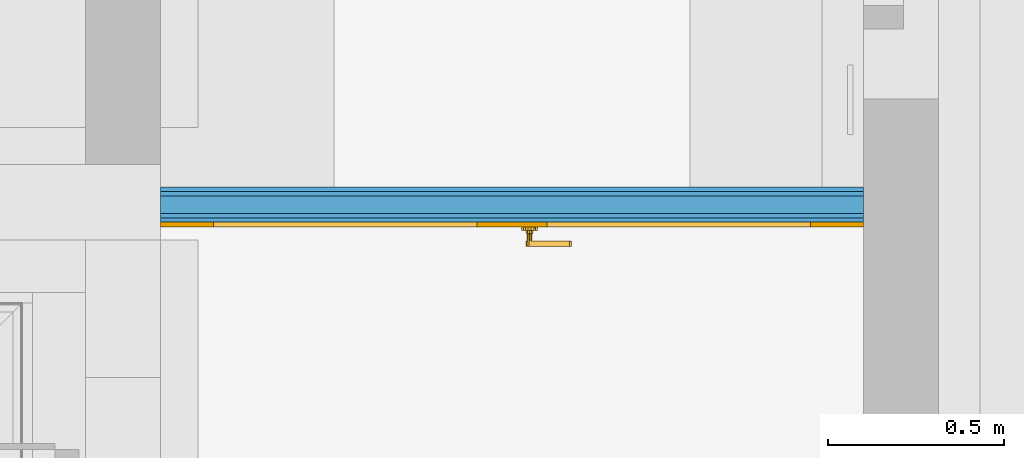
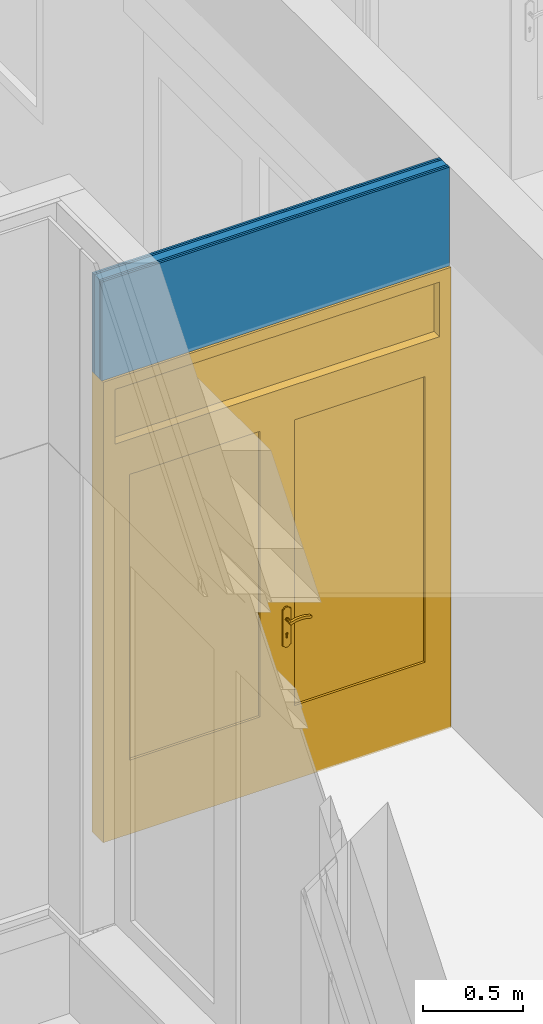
# One storey, part 17 of 788: 5 building element parts, 1 door, 1 opening, 1 element without a shape of its own.
"""IFC2X3 building model written with IfcOpenShell, lengths in millimetres."""

from ifc_helpers import new_model, entity, si_unit, converted_unit, derived_unit, money_unit, direction, frame, origin_with_axes, place, context, subcontext, project, spatial, open_shell, faceted_brep, surface_model, source, transform, mapped, material, type_object, type_shapes, element, fill, aggregate, save


model = new_model("IFC2X3")

# Units and contexts
model_context = context("Model", 3, precision=0.01, world=origin_with_axes(), true_north=direction((0.0, 1.0)))
plan_context = context("Plan", 3, precision=0.01, world=origin_with_axes(), true_north=direction((0.0, 1.0)))
body_context = subcontext(model_context, "Body", "Model", "MODEL_VIEW")
ifc_project = project(units=[si_unit("LENGTHUNIT", "METRE", prefix="MILLI"), si_unit("AREAUNIT", "SQUARE_METRE"), si_unit("VOLUMEUNIT", "CUBIC_METRE"), converted_unit("PLANEANGLEUNIT", "DEGREE", entity("IfcPlaneAngleMeasure", 0.0174532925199), si_unit("PLANEANGLEUNIT", "RADIAN"), dimensions=[0, 0, 0, 0, 0, 0, 0]), money_unit("EUR"), converted_unit("TIMEUNIT", "Year", entity("IfcTimeMeasure", 31556926.0), si_unit("TIMEUNIT", "SECOND"), dimensions=[0, 0, 1, 0, 0, 0, 0]), si_unit("MASSUNIT", "GRAM", prefix="KILO"), si_unit("THERMODYNAMICTEMPERATUREUNIT", "DEGREE_CELSIUS"), si_unit("LUMINOUSINTENSITYUNIT", "LUMEN"), si_unit("ENERGYUNIT", "JOULE", prefix="MEGA"), derived_unit("THERMALCONDUCTANCEUNIT", [(si_unit("POWERUNIT", "WATT"), 1), (si_unit("LENGTHUNIT", "METRE"), -1), (si_unit("THERMODYNAMICTEMPERATUREUNIT", "KELVIN"), -1)]), derived_unit("SPECIFICHEATCAPACITYUNIT", [(si_unit("ENERGYUNIT", "JOULE"), 1), (si_unit("MASSUNIT", "GRAM", prefix="KILO"), -1), (si_unit("THERMODYNAMICTEMPERATUREUNIT", "KELVIN"), -1)]), derived_unit("MASSDENSITYUNIT", [(si_unit("MASSUNIT", "GRAM", prefix="KILO"), 1), (si_unit("VOLUMEUNIT", "CUBIC_METRE"), -1)])], contexts=[model_context, plan_context])

# Site, building, storey
site_placement = place(None, origin_with_axes())
site = spatial("IfcSite", under=ifc_project, at=site_placement, Name="Site", CompositionType="ELEMENT")
building_placement = place(site_placement, origin_with_axes())
building = spatial("IfcBuilding", under=site, at=building_placement, Name="Naam gebouw", CompositionType="ELEMENT")
storey_placement = place(building_placement, origin_with_axes())
storey = spatial("IfcBuildingStorey", under=building, at=storey_placement, Name="Begane grond", CompositionType="ELEMENT", Elevation=0.0)

# Door
door_style = type_object("IfcDoorStyle", Name="D2 bl 25", ConstructionType="NOTDEFINED", OperationType="DOUBLE_DOOR_SINGLE_SWING", ParameterTakesPrecedence=False, Sizeable=False)
shared_shape = source(origin_with_axes(), body_context, "Body", "SurfaceModel", [
    faceted_brep([(933.0, -40.0, 2327.0), (933.0, -40.0, 0.0), (933.0, -114.0, 0.0), (933.0, -114.0, 2310.0), (933.0, -114.0, 2400.0), (933.0, 0.0, 2400.0), (933.0, 0.0, 2327.0), (950.0, -40.0, 2327.0), (950.0, -40.0, 0.0), (950.0, 0.0, 0.0), (1000.0, 0.0, 0.0), (1000.0, -114.0, 0.0), (1000.0, -114.0, 2733.0), (933.0, -114.0, 2733.0), (933.0, 0.0, 2733.0), (950.0, 0.0, 2327.0), (1000.0, 0.0, 2733.0)], [[[0, 1, 2, 3, 4, 5, 6]], [[0, 7, 8, 1]], [[8, 9, 10, 11, 2, 1]], [[4, 3, 2, 11, 12, 13]], [[14, 5, 4, 13]], [[15, 6, 5, 14, 16, 10, 9]], [[6, 15, 7, 0]], [[9, 8, 7, 15]], [[10, 16, 12, 11]], [[16, 14, 13, 12]]]),
    faceted_brep([(-950.0, 0.0, 2327.0), (-950.0, 0.0, 0.0), (-1000.0, 0.0, 0.0), (-1000.0, 0.0, 2733.0), (-933.0, 0.0, 2733.0), (-933.0, 0.0, 2400.0), (-933.0, 0.0, 2327.0), (-950.0, -40.0, 2327.0), (-950.0, -40.0, 0.0), (-933.0, -40.0, 0.0), (-933.0, -114.0, 0.0), (-1000.0, -114.0, 0.0), (-1000.0, -114.0, 2733.0), (-933.0, -114.0, 2733.0), (-933.0, -114.0, 2400.0), (-933.0, -40.0, 2327.0), (-933.0, -114.0, 2310.0)], [[[0, 1, 2, 3, 4, 5, 6]], [[0, 7, 8, 1]], [[8, 9, 10, 11, 2, 1]], [[3, 2, 11, 12]], [[4, 3, 12, 13]], [[5, 4, 13, 14]], [[15, 6, 5, 14, 16, 10, 9]], [[6, 15, 7, 0]], [[8, 7, 15, 9]], [[14, 13, 12, 11, 10, 16]]]),
    faceted_brep([(1000.0, 0.0, 2800.0), (1000.0, -114.0, 2800.0), (1000.0, -114.0, 2733.0), (1000.0, 0.0, 2733.0), (-1000.0, 0.0, 2800.0), (-1000.0, -114.0, 2800.0), (-1000.0, -114.0, 2733.0), (-933.0, -114.0, 2733.0), (933.0, -114.0, 2733.0), (933.0, 0.0, 2733.0), (-933.0, 0.0, 2733.0), (-1000.0, 0.0, 2733.0)], [[[0, 1, 2, 3]], [[4, 5, 1, 0]], [[1, 5, 6, 7, 8, 2]], [[3, 2, 8, 9]], [[0, 3, 9, 10, 11, 4]], [[11, 6, 5, 4]], [[10, 7, 6, 11]], [[9, 8, 7, 10]]]),
    faceted_brep([(-933.0, -40.0, 2327.0), (-933.0, -40.0, 2310.0), (-933.0, -114.0, 2310.0), (-933.0, -114.0, 2400.0), (-933.0, 0.0, 2400.0), (-933.0, 0.0, 2327.0), (933.0, -40.0, 2327.0), (933.0, -40.0, 2310.0), (933.0, -114.0, 2310.0), (933.0, -114.0, 2400.0), (933.0, 0.0, 2400.0), (933.0, 0.0, 2327.0)], [[[0, 1, 2, 3, 4, 5]], [[0, 6, 7, 1]], [[7, 8, 2, 1]], [[8, 9, 3, 2]], [[10, 4, 3, 9]], [[5, 4, 10, 11]], [[5, 11, 6, 0]], [[6, 11, 10, 9, 8, 7]]]),
    faceted_brep([(-45.2977179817, -80.0, 1006.47213595), (-45.2977179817, -60.0, 1006.47213595), (-50.0, -60.0, 1008.0), (-50.0, -80.0, 1008.0), (-42.3915478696, -80.0, 1002.47213595), (-42.3915478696, -60.0, 1002.47213595), (-44.1221474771, -58.0, 1008.09016994), (-50.0, -58.0, 1010.0), (-54.7022820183, -60.0, 1006.47213595), (-54.7022820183, -80.0, 1006.47213595), (-57.6084521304, -80.0, 1002.47213595), (-57.6084521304, -80.0, 997.527864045), (-54.7022820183, -80.0, 993.527864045), (-50.0, -80.0, 992.0), (-45.2977179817, -80.0, 993.527864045), (-42.3915478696, -80.0, 997.527864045), (-42.3915478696, -60.0, 997.527864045), (-40.489434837, -58.0, 1003.09016994), (-44.1221474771, -50.0, 1008.09016994), (-50.0, -50.0, 1010.0), (-55.8778525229, -58.0, 1008.09016994), (-57.6084521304, -60.0, 1002.47213595), (-57.6084521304, -60.0, 997.527864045), (-54.7022820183, -60.0, 993.527864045), (-50.0, -60.0, 992.0), (-45.2977179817, -60.0, 993.527864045), (-40.489434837, -58.0, 996.909830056), (-40.489434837, -50.0, 1003.09016994), (-40.489434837, -50.0, 996.909830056), (-44.1221474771, -50.0, 991.909830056), (-50.0, -50.0, 990.0), (-55.8778525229, -50.0, 991.909830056), (-59.510565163, -50.0, 996.909830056), (-59.510565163, -50.0, 1003.09016994), (-55.8778525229, -50.0, 1008.09016994), (-59.510565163, -58.0, 1003.09016994), (-59.510565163, -58.0, 996.909830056), (-55.8778525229, -58.0, 991.909830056), (-50.0, -58.0, 990.0), (-44.1221474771, -58.0, 991.909830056)], [[[0, 1, 2, 3]], [[4, 5, 1, 0]], [[1, 6, 7, 2]], [[3, 2, 8, 9]], [[3, 9, 10, 11, 12, 13, 14, 15, 4, 0]], [[15, 16, 5, 4]], [[5, 17, 6, 1]], [[6, 18, 19, 7]], [[2, 7, 20, 8]], [[9, 8, 21, 10]], [[10, 21, 22, 11]], [[11, 22, 23, 12]], [[12, 23, 24, 13]], [[13, 24, 25, 14]], [[14, 25, 16, 15]], [[16, 26, 17, 5]], [[17, 27, 18, 6]], [[19, 18, 27, 28, 29, 30, 31, 32, 33, 34]], [[7, 19, 34, 20]], [[8, 20, 35, 21]], [[21, 35, 36, 22]], [[22, 36, 37, 23]], [[23, 37, 38, 24]], [[24, 38, 39, 25]], [[25, 39, 26, 16]], [[26, 28, 27, 17]], [[39, 29, 28, 26]], [[38, 30, 29, 39]], [[37, 31, 30, 38]], [[36, 32, 31, 37]], [[35, 33, 32, 36]], [[20, 34, 33, 35]]]),
    faceted_brep([(-62.1883833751, -50.0, 1067.59695641), (-66.8, -50.0, 1060.0), (-72.5, -50.0, 1060.0), (-72.5, -50.0, 840.0), (-66.8, -50.0, 840.0), (-62.1883833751, -50.0, 832.403043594), (-54.4435558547, -50.0, 828.044328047), (-45.5564441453, -50.0, 828.044328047), (-37.8116166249, -50.0, 832.403043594), (-33.2, -50.0, 840.0), (-27.5, -50.0, 840.0), (-27.5, -50.0, 1060.0), (-33.2, -50.0, 1060.0), (-37.8116166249, -50.0, 1067.59695641), (-45.5564441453, -50.0, 1071.95567195), (-54.4435558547, -50.0, 1071.95567195), (-50.0, -50.0, 917.425445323), (-44.624817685, -50.0, 915.143815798), (-42.5321692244, -50.0, 909.692280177), (-45.0, -50.0, 904.4), (-45.0, -50.0, 887.5), (-46.4644660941, -50.0, 883.964466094), (-50.0, -50.0, 882.5), (-53.5355339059, -50.0, 883.964466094), (-55.0, -50.0, 887.5), (-55.0, -50.0, 904.4), (-57.4678307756, -50.0, 909.692280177), (-55.375182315, -50.0, 915.143815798), (-62.1883833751, -40.0, 1067.59695641), (-66.8, -40.0, 1060.0), (-72.5, -40.0, 1060.0), (-72.5, -40.0, 840.0), (-66.8, -40.0, 840.0), (-62.1883833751, -40.0, 832.403043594), (-54.4435558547, -40.0, 828.044328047), (-45.5564441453, -40.0, 828.044328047), (-37.8116166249, -40.0, 832.403043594), (-33.2, -40.0, 840.0), (-27.5, -40.0, 840.0), (-27.5, -40.0, 1060.0), (-33.2, -40.0, 1060.0), (-37.8116166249, -40.0, 1067.59695641), (-45.5564441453, -40.0, 1071.95567195), (-54.4435558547, -40.0, 1071.95567195), (-50.0, -40.0, 917.425445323), (-44.624817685, -40.0, 915.143815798), (-42.5321692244, -40.0, 909.692280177), (-45.0, -40.0, 904.4), (-45.0, -40.0, 887.5), (-46.4644660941, -40.0, 883.964466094), (-50.0, -40.0, 882.5), (-53.5355339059, -40.0, 883.964466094), (-55.0, -40.0, 887.5), (-55.0, -40.0, 904.4), (-57.4678307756, -40.0, 909.692280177), (-55.375182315, -40.0, 915.143815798)], [[[0, 1, 2, 3, 4, 5, 6, 7, 8, 9, 10, 11, 12, 13, 14, 15], [16, 17, 18, 19, 20, 21, 22, 23, 24, 25, 26, 27]], [[0, 28, 29, 1]], [[1, 29, 30, 2]], [[2, 30, 31, 3]], [[3, 31, 32, 4]], [[4, 32, 33, 5]], [[5, 33, 34, 6]], [[6, 34, 35, 7]], [[7, 35, 36, 8]], [[8, 36, 37, 9]], [[9, 37, 38, 10]], [[10, 38, 39, 11]], [[11, 39, 40, 12]], [[12, 40, 41, 13]], [[13, 41, 42, 14]], [[14, 42, 43, 15]], [[15, 43, 28, 0]], [[16, 44, 45, 17]], [[17, 45, 46, 18]], [[18, 46, 47, 19]], [[47, 48, 20, 19]], [[21, 20, 48, 49]], [[22, 21, 49, 50]], [[23, 22, 50, 51]], [[24, 23, 51, 52]], [[25, 24, 52, 53]], [[25, 53, 54, 26]], [[26, 54, 55, 27]], [[27, 55, 44, 16]], [[32, 31, 30, 29, 28, 43, 42, 41, 40, 39, 38, 37, 36, 35, 34, 33], [46, 45, 44, 55, 54, 53, 52, 51, 50, 49, 48, 47]]]),
    faceted_brep([(-164.253, -80.0, 1007.158), (-164.254491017, -80.0, 1007.19388416), (-164.254491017, -95.0, 1007.19388416), (-164.253, -95.0, 1007.158), (-137.225369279, -80.0, 1014.32652034), (-109.397256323, -80.0, 1017.06086405), (-81.4912596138, -80.0, 1015.29002982), (-54.232, -80.0, 1009.06), (-47.8294248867, -80.0, 1009.76125134), (-42.3273660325, -80.0, 1006.41280843), (-40.0084873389, -80.0, 1000.40385485), (-41.8348324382, -80.0, 994.227352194), (-47.0486973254, -80.0, 990.445773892), (-53.4869824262, -80.0, 990.628000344), (-58.4786074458, -80.0, 994.698430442), (-58.458, -80.0, 994.666), (-83.7467138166, -80.0, 1000.19878945), (-109.589181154, -80.0, 1001.71460194), (-135.351315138, -80.0, 999.176244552), (-160.401, -80.0, 992.646), (-165.944184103, -80.0, 993.568490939), (-169.30572551, -80.0, 998.071591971), (-168.614155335, -80.0, 1003.64829442), (-168.614155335, -95.0, 1003.64829442), (-169.30572551, -95.0, 998.071591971), (-165.944184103, -95.0, 993.568490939), (-160.401, -95.0, 992.646), (-135.351315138, -95.0, 999.176244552), (-109.589181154, -95.0, 1001.71460194), (-83.7467138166, -95.0, 1000.19878945), (-58.458, -95.0, 994.666), (-58.4786074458, -95.0, 994.698430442), (-53.4869824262, -95.0, 990.628000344), (-47.0486973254, -95.0, 990.445773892), (-41.8348324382, -95.0, 994.227352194), (-40.0084873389, -95.0, 1000.40385485), (-42.3273660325, -95.0, 1006.41280843), (-47.8294248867, -95.0, 1009.76125134), (-54.232, -95.0, 1009.06), (-81.4912596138, -95.0, 1015.29002982), (-109.397256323, -95.0, 1017.06086405), (-137.225369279, -95.0, 1014.32652034)], [[[0, 1, 2, 3]], [[0, 4, 5, 6, 7, 8, 9, 10, 11, 12, 13, 14, 15, 16, 17, 18, 19, 20, 21, 22, 1]], [[1, 22, 23, 2]], [[3, 2, 23, 24, 25, 26, 27, 28, 29, 30, 31, 32, 33, 34, 35, 36, 37, 38, 39, 40, 41]], [[4, 0, 3, 41]], [[5, 4, 41, 40]], [[6, 5, 40, 39]], [[7, 6, 39, 38]], [[8, 7, 38, 37]], [[9, 8, 37, 36]], [[10, 9, 36, 35]], [[11, 10, 35, 34]], [[12, 11, 34, 33]], [[13, 12, 33, 32]], [[14, 13, 32, 31]], [[15, 14, 31, 30]], [[16, 15, 30, 29]], [[17, 16, 29, 28]], [[18, 17, 28, 27]], [[19, 18, 27, 26]], [[20, 19, 26, 25]], [[21, 20, 25, 24]], [[22, 21, 24, 23]]]),
    faceted_brep([(-45.2977179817, 40.0, 1006.47213595), (-50.0, 40.0, 1008.0), (-50.0, 20.0, 1008.0), (-45.2977179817, 20.0, 1006.47213595), (-42.3915478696, 40.0, 1002.47213595), (-42.3915478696, 40.0, 997.527864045), (-45.2977179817, 40.0, 993.527864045), (-50.0, 40.0, 992.0), (-54.7022820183, 40.0, 993.527864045), (-57.6084521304, 40.0, 997.527864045), (-57.6084521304, 40.0, 1002.47213595), (-54.7022820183, 40.0, 1006.47213595), (-54.7022820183, 20.0, 1006.47213595), (-50.0, 18.0, 1010.0), (-44.1221474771, 18.0, 1008.09016994), (-42.3915478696, 20.0, 1002.47213595), (-42.3915478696, 20.0, 997.527864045), (-45.2977179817, 20.0, 993.527864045), (-50.0, 20.0, 992.0), (-54.7022820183, 20.0, 993.527864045), (-57.6084521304, 20.0, 997.527864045), (-57.6084521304, 20.0, 1002.47213595), (-55.8778525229, 18.0, 1008.09016994), (-50.0, 10.0, 1010.0), (-44.1221474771, 10.0, 1008.09016994), (-40.489434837, 18.0, 1003.09016994), (-40.489434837, 18.0, 996.909830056), (-44.1221474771, 18.0, 991.909830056), (-50.0, 18.0, 990.0), (-55.8778525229, 18.0, 991.909830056), (-59.510565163, 18.0, 996.909830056), (-59.510565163, 18.0, 1003.09016994), (-55.8778525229, 10.0, 1008.09016994), (-59.510565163, 10.0, 1003.09016994), (-59.510565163, 10.0, 996.909830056), (-55.8778525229, 10.0, 991.909830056), (-50.0, 10.0, 990.0), (-44.1221474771, 10.0, 991.909830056), (-40.489434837, 10.0, 996.909830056), (-40.489434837, 10.0, 1003.09016994)], [[[0, 1, 2, 3]], [[1, 0, 4, 5, 6, 7, 8, 9, 10, 11]], [[1, 11, 12, 2]], [[3, 2, 13, 14]], [[4, 0, 3, 15]], [[5, 4, 15, 16]], [[6, 5, 16, 17]], [[7, 6, 17, 18]], [[8, 7, 18, 19]], [[9, 8, 19, 20]], [[10, 9, 20, 21]], [[11, 10, 21, 12]], [[2, 12, 22, 13]], [[14, 13, 23, 24]], [[15, 3, 14, 25]], [[16, 15, 25, 26]], [[17, 16, 26, 27]], [[18, 17, 27, 28]], [[19, 18, 28, 29]], [[20, 19, 29, 30]], [[21, 20, 30, 31]], [[12, 21, 31, 22]], [[13, 22, 32, 23]], [[23, 32, 33, 34, 35, 36, 37, 38, 39, 24]], [[25, 14, 24, 39]], [[26, 25, 39, 38]], [[27, 26, 38, 37]], [[28, 27, 37, 36]], [[29, 28, 36, 35]], [[30, 29, 35, 34]], [[31, 30, 34, 33]], [[22, 31, 33, 32]]]),
    faceted_brep([(-62.1883833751, 0.0, 1067.59695641), (-66.8, 0.0, 1060.0), (-72.5, 0.0, 1060.0), (-72.5, 0.0, 840.0), (-66.8, 0.0, 840.0), (-62.1883833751, 0.0, 832.403043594), (-54.4435558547, 0.0, 828.044328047), (-45.5564441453, 0.0, 828.044328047), (-37.8116166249, 0.0, 832.403043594), (-33.2, 0.0, 840.0), (-27.5, 0.0, 840.0), (-27.5, 0.0, 1060.0), (-33.2, 0.0, 1060.0), (-37.8116166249, 0.0, 1067.59695641), (-45.5564441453, 0.0, 1071.95567195), (-54.4435558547, 0.0, 1071.95567195), (-50.0, 0.0, 917.425445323), (-44.624817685, 0.0, 915.143815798), (-42.5321692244, 0.0, 909.692280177), (-45.0, 0.0, 904.4), (-45.0, 0.0, 887.5), (-46.4644660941, 0.0, 883.964466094), (-50.0, 0.0, 882.5), (-53.5355339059, 0.0, 883.964466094), (-55.0, 0.0, 887.5), (-55.0, 0.0, 904.4), (-57.4678307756, 0.0, 909.692280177), (-55.375182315, 0.0, 915.143815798), (-62.1883833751, 10.0, 1067.59695641), (-66.8, 10.0, 1060.0), (-72.5, 10.0, 1060.0), (-72.5, 10.0, 840.0), (-66.8, 10.0, 840.0), (-62.1883833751, 10.0, 832.403043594), (-54.4435558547, 10.0, 828.044328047), (-45.5564441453, 10.0, 828.044328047), (-37.8116166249, 10.0, 832.403043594), (-33.2, 10.0, 840.0), (-27.5, 10.0, 840.0), (-27.5, 10.0, 1060.0), (-33.2, 10.0, 1060.0), (-37.8116166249, 10.0, 1067.59695641), (-45.5564441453, 10.0, 1071.95567195), (-54.4435558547, 10.0, 1071.95567195), (-50.0, 10.0, 917.425445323), (-44.624817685, 10.0, 915.143815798), (-42.5321692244, 10.0, 909.692280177), (-45.0, 10.0, 904.4), (-45.0, 10.0, 887.5), (-46.4644660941, 10.0, 883.964466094), (-50.0, 10.0, 882.5), (-53.5355339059, 10.0, 883.964466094), (-55.0, 10.0, 887.5), (-55.0, 10.0, 904.4), (-57.4678307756, 10.0, 909.692280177), (-55.375182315, 10.0, 915.143815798)], [[[0, 1, 2, 3, 4, 5, 6, 7, 8, 9, 10, 11, 12, 13, 14, 15], [16, 17, 18, 19, 20, 21, 22, 23, 24, 25, 26, 27]], [[28, 29, 1, 0]], [[29, 30, 2, 1]], [[30, 31, 3, 2]], [[31, 32, 4, 3]], [[32, 33, 5, 4]], [[33, 34, 6, 5]], [[34, 35, 7, 6]], [[35, 36, 8, 7]], [[36, 37, 9, 8]], [[37, 38, 10, 9]], [[38, 39, 11, 10]], [[39, 40, 12, 11]], [[40, 41, 13, 12]], [[41, 42, 14, 13]], [[42, 43, 15, 14]], [[43, 28, 0, 15]], [[16, 44, 45, 17]], [[17, 45, 46, 18]], [[18, 46, 47, 19]], [[47, 48, 20, 19]], [[21, 20, 48, 49]], [[22, 21, 49, 50]], [[23, 22, 50, 51]], [[24, 23, 51, 52]], [[25, 24, 52, 53]], [[25, 53, 54, 26]], [[26, 54, 55, 27]], [[27, 55, 44, 16]], [[32, 31, 30, 29, 28, 43, 42, 41, 40, 39, 38, 37, 36, 35, 34, 33], [46, 45, 44, 55, 54, 53, 52, 51, 50, 49, 48, 47]]]),
    faceted_brep([(-164.253, 40.0, 1007.158), (-164.253, 55.0, 1007.158), (-164.254491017, 55.0, 1007.19388416), (-164.254491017, 40.0, 1007.19388416), (-137.225369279, 40.0, 1014.32652034), (-137.225369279, 55.0, 1014.32652034), (-109.397256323, 55.0, 1017.06086405), (-81.4912596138, 55.0, 1015.29002982), (-54.232, 55.0, 1009.06), (-47.8294248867, 55.0, 1009.76125134), (-42.3273660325, 55.0, 1006.41280843), (-40.0084873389, 55.0, 1000.40385485), (-41.8348324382, 55.0, 994.227352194), (-47.0486973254, 55.0, 990.445773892), (-53.4869824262, 55.0, 990.628000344), (-58.4786074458, 55.0, 994.698430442), (-58.458, 55.0, 994.666), (-83.7467138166, 55.0, 1000.19878945), (-109.589181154, 55.0, 1001.71460194), (-135.351315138, 55.0, 999.176244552), (-160.401, 55.0, 992.646), (-165.944184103, 55.0, 993.568490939), (-169.30572551, 55.0, 998.071591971), (-168.614155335, 55.0, 1003.64829442), (-168.614155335, 40.0, 1003.64829442), (-169.30572551, 40.0, 998.071591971), (-165.944184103, 40.0, 993.568490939), (-160.401, 40.0, 992.646), (-135.351315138, 40.0, 999.176244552), (-109.589181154, 40.0, 1001.71460194), (-83.7467138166, 40.0, 1000.19878945), (-58.458, 40.0, 994.666), (-58.4786074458, 40.0, 994.698430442), (-53.4869824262, 40.0, 990.628000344), (-47.0486973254, 40.0, 990.445773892), (-41.8348324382, 40.0, 994.227352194), (-40.0084873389, 40.0, 1000.40385485), (-42.3273660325, 40.0, 1006.41280843), (-47.8294248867, 40.0, 1009.76125134), (-54.232, 40.0, 1009.06), (-81.4912596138, 40.0, 1015.29002982), (-109.397256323, 40.0, 1017.06086405)], [[[0, 1, 2, 3]], [[4, 5, 1, 0]], [[1, 5, 6, 7, 8, 9, 10, 11, 12, 13, 14, 15, 16, 17, 18, 19, 20, 21, 22, 23, 2]], [[3, 2, 23, 24]], [[0, 3, 24, 25, 26, 27, 28, 29, 30, 31, 32, 33, 34, 35, 36, 37, 38, 39, 40, 41, 4]], [[41, 6, 5, 4]], [[40, 7, 6, 41]], [[39, 8, 7, 40]], [[38, 9, 8, 39]], [[37, 10, 9, 38]], [[36, 11, 10, 37]], [[35, 12, 11, 36]], [[34, 13, 12, 35]], [[33, 14, 13, 34]], [[32, 15, 14, 33]], [[31, 16, 15, 32]], [[30, 17, 16, 31]], [[29, 18, 17, 30]], [[28, 19, 18, 29]], [[27, 20, 19, 28]], [[26, 21, 20, 27]], [[25, 22, 21, 26]], [[24, 23, 22, 25]]]),
    faceted_brep([(-950.0, 0.0, 450.0), (-850.0, 0.0, 450.0), (-850.0, -40.0, 450.0), (-950.0, -40.0, 450.0), (-950.0, 0.0, 2187.0), (-850.0, 0.0, 2187.0), (-850.0, -40.0, 2187.0), (-950.0, -40.0, 2187.0)], [[[0, 1, 2, 3]], [[0, 4, 5, 1]], [[1, 5, 6, 2]], [[3, 2, 6, 7]], [[4, 0, 3, 7]], [[5, 4, 7, 6]]]),
    faceted_brep([(0.0, 0.0, 450.0), (0.0, 0.0, 2187.0), (0.0, -40.0, 2187.0), (0.0, -40.0, 450.0), (-100.0, 0.0, 450.0), (-100.0, 0.0, 2187.0), (-100.0, -40.0, 2187.0), (-100.0, -40.0, 450.0)], [[[0, 1, 2, 3]], [[0, 4, 5, 1]], [[1, 5, 6, 2]], [[3, 2, 6, 7]], [[4, 0, 3, 7]], [[5, 4, 7, 6]]]),
    faceted_brep([(-950.0, 0.0, 0.0), (0.0, 0.0, 0.0), (0.0, -40.0, 0.0), (-950.0, -40.0, 0.0), (-950.0, 0.0, 450.0), (-850.0, 0.0, 450.0), (-100.0, 0.0, 450.0), (0.0, 0.0, 450.0), (0.0, -40.0, 450.0), (-100.0, -40.0, 450.0), (-850.0, -40.0, 450.0), (-950.0, -40.0, 450.0)], [[[0, 1, 2, 3]], [[0, 4, 5, 6, 7, 1]], [[1, 7, 8, 2]], [[3, 2, 8, 9, 10, 11]], [[4, 0, 3, 11]], [[5, 4, 11, 10]], [[6, 5, 10, 9]], [[7, 6, 9, 8]]]),
    faceted_brep([(-950.0, 0.0, 2327.0), (-950.0, 0.0, 2187.0), (-950.0, -40.0, 2187.0), (-950.0, -40.0, 2327.0), (0.0, 0.0, 2327.0), (0.0, 0.0, 2187.0), (-100.0, 0.0, 2187.0), (-850.0, 0.0, 2187.0), (-850.0, -40.0, 2187.0), (-100.0, -40.0, 2187.0), (0.0, -40.0, 2187.0), (0.0, -40.0, 2327.0)], [[[0, 1, 2, 3]], [[0, 4, 5, 6, 7, 1]], [[1, 7, 8, 2]], [[3, 2, 8, 9, 10, 11]], [[4, 0, 3, 11]], [[5, 4, 11, 10]], [[6, 5, 10, 9]], [[7, 6, 9, 8]]]),
    surface_model("IfcShellBasedSurfaceModel", [(-850.0, -14.0, 450.0), (-850.0, -14.0, 2187.0), (-100.0, -14.0, 2187.0), (-100.0, -14.0, 450.0)], [open_shell([[[0, 1, 2, 3]]])]),
    surface_model("IfcShellBasedSurfaceModel", [(-850.0, -26.0, 450.0), (-100.0, -26.0, 450.0), (-100.0, -26.0, 2187.0), (-850.0, -26.0, 2187.0)], [open_shell([[[0, 1, 2, 3]]])]),
    faceted_brep([(950.0, 0.0, 450.0), (950.0, -40.0, 450.0), (850.0, -40.0, 450.0), (850.0, 0.0, 450.0), (950.0, 0.0, 2187.0), (950.0, -40.0, 2187.0), (850.0, -40.0, 2187.0), (850.0, 0.0, 2187.0)], [[[0, 1, 2, 3]], [[4, 5, 1, 0]], [[1, 5, 6, 2]], [[3, 2, 6, 7]], [[0, 3, 7, 4]], [[7, 6, 5, 4]]]),
    faceted_brep([(0.0, 0.0, 450.0), (0.0, -40.0, 450.0), (0.0, -40.0, 2187.0), (0.0, 0.0, 2187.0), (100.0, 0.0, 450.0), (100.0, -40.0, 450.0), (100.0, -40.0, 2187.0), (100.0, 0.0, 2187.0)], [[[0, 1, 2, 3]], [[4, 5, 1, 0]], [[1, 5, 6, 2]], [[3, 2, 6, 7]], [[0, 3, 7, 4]], [[7, 6, 5, 4]]]),
    faceted_brep([(950.0, 0.0, 0.0), (950.0, -40.0, 0.0), (0.0, -40.0, 0.0), (0.0, 0.0, 0.0), (950.0, 0.0, 450.0), (950.0, -40.0, 450.0), (850.0, -40.0, 450.0), (100.0, -40.0, 450.0), (0.0, -40.0, 450.0), (0.0, 0.0, 450.0), (100.0, 0.0, 450.0), (850.0, 0.0, 450.0)], [[[0, 1, 2, 3]], [[4, 5, 1, 0]], [[1, 5, 6, 7, 8, 2]], [[3, 2, 8, 9]], [[0, 3, 9, 10, 11, 4]], [[11, 6, 5, 4]], [[10, 7, 6, 11]], [[9, 8, 7, 10]]]),
    faceted_brep([(950.0, 0.0, 2327.0), (950.0, -40.0, 2327.0), (950.0, -40.0, 2187.0), (950.0, 0.0, 2187.0), (0.0, 0.0, 2327.0), (0.0, -40.0, 2327.0), (0.0, -40.0, 2187.0), (100.0, -40.0, 2187.0), (850.0, -40.0, 2187.0), (850.0, 0.0, 2187.0), (100.0, 0.0, 2187.0), (0.0, 0.0, 2187.0)], [[[0, 1, 2, 3]], [[4, 5, 1, 0]], [[1, 5, 6, 7, 8, 2]], [[3, 2, 8, 9]], [[0, 3, 9, 10, 11, 4]], [[11, 6, 5, 4]], [[10, 7, 6, 11]], [[9, 8, 7, 10]]]),
    surface_model("IfcShellBasedSurfaceModel", [(850.0, -14.0, 450.0), (100.0, -14.0, 450.0), (100.0, -14.0, 2187.0), (850.0, -14.0, 2187.0)], [open_shell([[[0, 1, 2, 3]]])]),
    surface_model("IfcShellBasedSurfaceModel", [(850.0, -26.0, 450.0), (850.0, -26.0, 2187.0), (100.0, -26.0, 2187.0), (100.0, -26.0, 450.0)], [open_shell([[[0, 1, 2, 3]]])]),
    surface_model("IfcShellBasedSurfaceModel", [(933.0, -54.0, 2400.0), (-933.0, -54.0, 2400.0), (-933.0, -54.0, 2733.0), (933.0, -54.0, 2733.0)], [open_shell([[[0, 1, 2, 3]]])]),
    surface_model("IfcShellBasedSurfaceModel", [(933.0, -66.0, 2400.0), (933.0, -66.0, 2733.0), (-933.0, -66.0, 2733.0), (-933.0, -66.0, 2400.0)], [open_shell([[[0, 1, 2, 3]]])]),
])
type_shapes(door_style, [shared_shape])
wall_placement = place(storey_placement, frame((50348.0363299, 6469.99642804, -70.0), z_axis=(0.0, 0.0, 1.0), x_axis=(-1.0, 0.0, 0.0)))
opening_placement = place(wall_placement, frame((1213.9982451, 0.0, 70.0), z_axis=(0.0, 0.0, 1.0), x_axis=(1.0, 0.0, 0.0)))
door_placement = place(opening_placement, frame((-1000.0, 0.0, 0.0), z_axis=(0.0, 0.0, 1.0), x_axis=(1.0, 0.0, 0.0)))
door = element("IfcDoor", 1, at=door_placement, inside=storey, type_object=door_style, Name="b2.02", ObjectType="DOOR", OverallHeight=2800.0, OverallWidth=2000.0, context=body_context, shape_type="MappedRepresentation", body=[
    mapped(shared_shape, transform((1000.0, 64.0, 0.0))),
])

# Wall, opening
wall_type = type_object("IfcWallType", Name="22 Metalstud 100mm 100", PredefinedType="ELEMENTEDWALL")
wall = element("IfcWall", 2, at=wall_placement, inside=storey, type_object=wall_type, Name="Metalstud 100mm")
opening = element("IfcOpeningElement", 3, at=opening_placement, cuts=wall, Name="b2.02", context=body_context, shape_type="Brep", body=[
    faceted_brep([(-1000.0, -200.0, 0.0), (-1000.0, -200.0, 2800.0), (-1000.0, 100.0, 2800.0), (-1000.0, 100.0, 0.0), (1000.0, -200.0, 0.0), (1000.0, -200.0, 2800.0), (1000.0, 100.0, 2800.0), (1000.0, 100.0, 0.0)], [[[0, 1, 2, 3]], [[0, 4, 5, 1]], [[1, 5, 6, 2]], [[3, 2, 6, 7]], [[4, 0, 3, 7]], [[5, 4, 7, 6]]]),
])

fill(opening, door)

# Building element part
ifc_material_1 = material(Name="Gipsplaat")
building_element_part_1_placement = place(wall_placement, origin_with_axes())
building_element_part_1 = element("IfcBuildingElementPart", 4, at=building_element_part_1_placement, material=ifc_material_1, Name="Gipsplaat", context=body_context, shape_type="Brep", body=[
    faceted_brep([(213.998245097, 50.0, 2870.0), (213.998245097, 37.5, 2870.0), (214.0, 37.5, 3470.0), (214.0, 50.0, 3470.0), (2213.9982451, 37.5, 2870.0), (2213.9982451, 50.0, 2870.0), (2214.0, 37.5, 3470.0), (2214.0, 50.0, 3470.0)], [[[0, 1, 2, 3]], [[4, 1, 0, 5]], [[1, 4, 6, 2]], [[6, 7, 3, 2]], [[5, 0, 3, 7]], [[4, 5, 7, 6]]]),
])

building_element_part_2_placement = place(wall_placement, origin_with_axes())
building_element_part_2 = element("IfcBuildingElementPart", 5, at=building_element_part_2_placement, material=ifc_material_1, Name="Gipsplaat", context=body_context, shape_type="Brep", body=[
    faceted_brep([(213.998245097, 37.5, 2870.0), (213.998245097, 25.0, 2870.0), (214.0, 25.0, 3470.0), (214.0, 37.5, 3470.0), (2213.9982451, 25.0, 2870.0), (2213.9982451, 37.5, 2870.0), (2214.0, 25.0, 3470.0), (2214.0, 37.5, 3470.0)], [[[0, 1, 2, 3]], [[4, 1, 0, 5]], [[1, 4, 6, 2]], [[6, 7, 3, 2]], [[5, 0, 3, 7]], [[4, 5, 7, 6]]]),
])

ifc_material_2 = material(Name="Isolatie - Steenwol LSW")
building_element_part_3_placement = place(wall_placement, origin_with_axes())
building_element_part_3 = element("IfcBuildingElementPart", 6, at=building_element_part_3_placement, material=ifc_material_2, Name="Isolatie - Steenwol LSW", context=body_context, shape_type="Brep", body=[
    faceted_brep([(213.998245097, 25.0, 2870.0), (213.998245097, -25.0, 2870.0), (214.0, -25.0, 3470.0), (214.0, 25.0, 3470.0), (2213.9982451, -25.0, 2870.0), (2213.9982451, 25.0, 2870.0), (2214.0, -25.0, 3470.0), (2214.0, 25.0, 3470.0)], [[[0, 1, 2, 3]], [[4, 1, 0, 5]], [[1, 4, 6, 2]], [[6, 7, 3, 2]], [[5, 0, 3, 7]], [[4, 5, 7, 6]]]),
])

building_element_part_4_placement = place(wall_placement, origin_with_axes())
building_element_part_4 = element("IfcBuildingElementPart", 7, at=building_element_part_4_placement, material=ifc_material_1, Name="Gipsplaat", context=body_context, shape_type="Brep", body=[
    faceted_brep([(213.998245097, -25.0, 2870.0), (213.998245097, -37.5, 2870.0), (214.0, -37.5, 3470.0), (214.0, -25.0, 3470.0), (2213.9982451, -37.5, 2870.0), (2213.9982451, -25.0, 2870.0), (2214.0, -37.5, 3470.0), (2214.0, -25.0, 3470.0)], [[[0, 1, 2, 3]], [[4, 1, 0, 5]], [[1, 4, 6, 2]], [[6, 7, 3, 2]], [[5, 0, 3, 7]], [[4, 5, 7, 6]]]),
])

building_element_part_5_placement = place(wall_placement, origin_with_axes())
building_element_part_5 = element("IfcBuildingElementPart", 8, at=building_element_part_5_placement, material=ifc_material_1, Name="Gipsplaat", context=body_context, shape_type="Brep", body=[
    faceted_brep([(213.998245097, -37.5, 2870.0), (213.998245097, -50.0, 2870.0), (214.0, -50.0, 3470.0), (214.0, -37.5, 3470.0), (2213.9982451, -50.0, 2870.0), (2213.9982451, -37.5, 2870.0), (2214.0, -50.0, 3470.0), (2214.0, -37.5, 3470.0)], [[[0, 1, 2, 3]], [[4, 1, 0, 5]], [[1, 4, 6, 2]], [[6, 7, 3, 2]], [[5, 0, 3, 7]], [[4, 5, 7, 6]]]),
])

aggregate(wall, [building_element_part_1, building_element_part_2, building_element_part_3, building_element_part_4, building_element_part_5])

save(model, "model.ifc")
